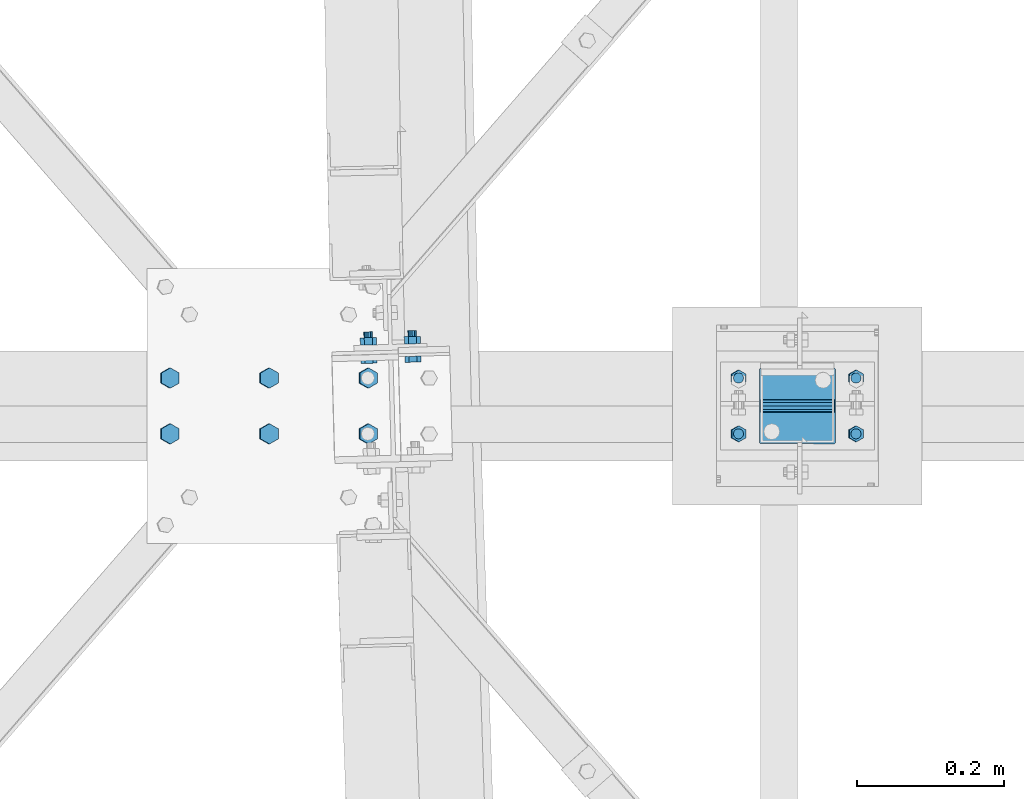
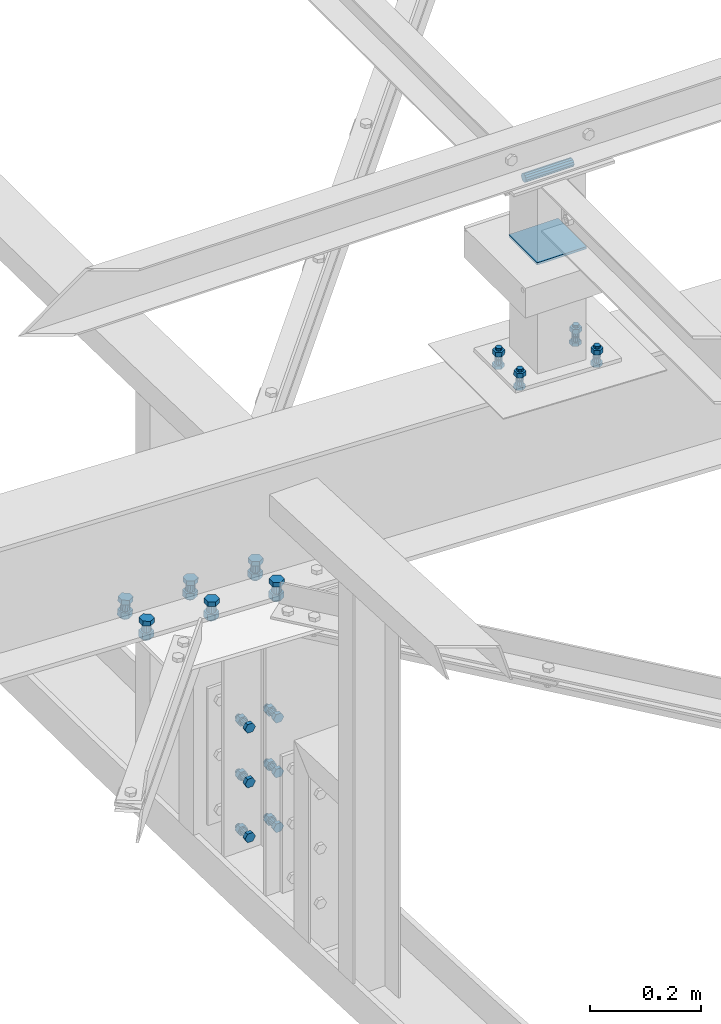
# One storey, part 164 of 3134: 6 mechanical fasteners, 4 elements without a shape of their own.
"""IFC2X3 building model written with IfcOpenShell, lengths in millimetres."""

from ifc_helpers import new_model, si_unit, frame, origin_with_axes, place, context, subcontext, project, spatial, faceted_brep, source, transform, mapped, material, type_object, element, aggregate, save


model = new_model("IFC2X3")

# Units and contexts
model_context = context("Model", 3, precision=1e-05, world=origin_with_axes())
body_context = subcontext(model_context, "Body", "Model", "MODEL_VIEW")
ifc_project = project(units=[si_unit("LENGTHUNIT", "METRE", prefix="MILLI"), si_unit("AREAUNIT", "SQUARE_METRE"), si_unit("VOLUMEUNIT", "CUBIC_METRE"), si_unit("MASSUNIT", "GRAM", prefix="KILO"), si_unit("TIMEUNIT", "SECOND"), si_unit("PLANEANGLEUNIT", "RADIAN"), si_unit("SOLIDANGLEUNIT", "STERADIAN"), si_unit("THERMODYNAMICTEMPERATUREUNIT", "DEGREE_CELSIUS"), si_unit("LUMINOUSINTENSITYUNIT", "LUMEN")], contexts=[model_context])

# Site, building, storey
site_placement = place(None, origin_with_axes())
site = spatial("IfcSite", under=ifc_project, at=site_placement, CompositionType="ELEMENT")
building_placement = place(site_placement, origin_with_axes())
building = spatial("IfcBuilding", under=site, at=building_placement, Name="Undefined", CompositionType="ELEMENT")
storey_placement = place(building_placement, origin_with_axes())
storey = spatial("IfcBuildingStorey", under=building, at=storey_placement, Name="Undefined", CompositionType="ELEMENT", Elevation=0.0)

# Assembly, mechanical fastener
assembly_1_placement = place(storey_placement, origin_with_axes())
assembly_1 = element("IfcElementAssembly", 1, at=assembly_1_placement, inside=storey, Name="PL8", AssemblyPlace="NOTDEFINED", PredefinedType="RIGID_FRAME")
ifc_material_1 = material(Name="8.8")
mechanical_fastener_type = type_object("IfcMechanicalFastenerType", Name="Bolt assembly")
shared_shape_1 = source(origin_with_axes(), body_context, "Body", "Brep", [
    faceted_brep([(13.856406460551, -23.1999997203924, 0.0), (6.92820323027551, -23.1999997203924, 12.0), (-6.92820323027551, -23.1999997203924, 12.0), (-13.856406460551, -23.1999997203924, 1.69692038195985e-15), (-6.92820323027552, -23.1999997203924, -12.0), (6.9282032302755, -23.1999997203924, -12.0), (6.9282032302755, -13.1999997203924, -12.0), (-6.92820323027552, -13.1999997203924, -12.0), (-13.856406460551, -13.1999997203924, 1.69692038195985e-15), (-6.92820323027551, -13.1999997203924, 12.0), (6.92820323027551, -13.1999997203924, 12.0), (13.856406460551, -13.1999997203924, 0.0), (8.0, -13.1999997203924, 0.0), (6.92820323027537, -13.1999997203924, 4.00000000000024), (3.99999999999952, -13.1999997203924, 6.92820323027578), (-8.29068785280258e-13, -13.1999997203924, 8.0), (-4.00000000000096, -13.1999997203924, 6.92820323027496), (-6.9282032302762, -13.1999997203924, 3.99999999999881), (-8.0, -13.1999997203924, -1.65813757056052e-12), (-6.92820323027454, -13.1999997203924, -4.00000000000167), (-3.99999999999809, -13.1999997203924, -6.92820323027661), (2.47832457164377e-12, -13.1999997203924, -8.0), (4.00000000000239, -13.1999997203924, -6.92820323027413), (6.92820323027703, -13.1999997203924, -3.99999999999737), (6.92820323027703, 21.8000002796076, -3.99999999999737), (4.00000000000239, 21.8000002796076, -6.92820323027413), (2.47832457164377e-12, 21.8000002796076, -8.0), (-3.99999999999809, 21.8000002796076, -6.92820323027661), (-6.92820323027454, 21.8000002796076, -4.00000000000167), (-8.0, 21.8000002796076, -1.65813757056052e-12), (-6.9282032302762, 21.8000002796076, 3.99999999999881), (-4.00000000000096, 21.8000002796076, 6.92820323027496), (-8.29068785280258e-13, 21.8000002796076, 8.0), (3.99999999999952, 21.8000002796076, 6.92820323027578), (6.92820323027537, 21.8000002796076, 4.00000000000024), (8.0, 21.8000002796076, 0.0), (13.856406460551, 3.99999999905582, 0.0), (6.92820323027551, 3.99999999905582, 12.0), (-6.92820323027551, 3.99999999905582, 12.0), (-13.856406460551, 3.99999999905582, 1.69692038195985e-15), (-6.92820323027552, 3.99999999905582, -12.0), (6.9282032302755, 3.99999999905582, -12.0), (6.9282032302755, 16.9999999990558, -12.0), (-6.92820323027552, 16.9999999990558, -12.0), (-13.856406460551, 16.9999999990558, 1.69692038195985e-15), (-6.92820323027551, 16.9999999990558, 12.0), (6.92820323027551, 16.9999999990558, 12.0), (13.856406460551, 16.9999999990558, 0.0)], [[[0, 1, 2, 3, 4, 5]], [[6, 7, 8, 9, 10, 11]], [[0, 11, 10, 1]], [[1, 10, 9, 2]], [[2, 9, 8, 3]], [[3, 8, 7, 4]], [[4, 7, 6, 5]], [[5, 6, 11, 0]], [[12, 13, 14, 15, 16, 17, 18, 19, 20, 21, 22, 23]], [[24, 25, 26, 27, 28, 29, 30, 31, 32, 33, 34, 35]], [[12, 35, 34, 13]], [[13, 34, 33, 14]], [[14, 33, 32, 15]], [[15, 32, 31, 16]], [[16, 31, 30, 17]], [[17, 30, 29, 18]], [[18, 29, 28, 19]], [[19, 28, 27, 20]], [[20, 27, 26, 21]], [[21, 26, 25, 22]], [[22, 25, 24, 23]], [[23, 24, 35, 12]], [[36, 37, 38, 39, 40, 41]], [[42, 43, 44, 45, 46, 47]], [[36, 47, 46, 37]], [[37, 46, 45, 38]], [[38, 45, 44, 39]], [[39, 44, 43, 40]], [[40, 43, 42, 41]], [[41, 42, 47, 36]]]),
    faceted_brep([(9.0, -13.0999997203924, 0.0), (7.79422863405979, -13.0999997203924, 4.50000000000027), (4.49999999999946, -13.0999997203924, 7.79422863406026), (-9.3270238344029e-13, -13.0999997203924, 9.0), (-4.50000000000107, -13.0999997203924, 7.79422863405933), (-7.79422863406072, -13.0999997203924, 4.49999999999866), (-9.0, -13.0999997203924, -1.86540476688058e-12), (-7.79422863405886, -13.0999997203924, -4.50000000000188), (-4.49999999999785, -13.0999997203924, -7.79422863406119), (2.78811514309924e-12, -13.0999997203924, -9.0), (4.50000000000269, -13.0999997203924, -7.7942286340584), (7.79422863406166, -13.0999997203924, -4.49999999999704), (7.79422863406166, -3.9, -4.49999999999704), (4.50000000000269, -3.9, -7.7942286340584), (2.78811514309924e-12, -3.9, -9.0), (-4.49999999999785, -3.9, -7.79422863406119), (-7.79422863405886, -3.9, -4.50000000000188), (-9.0, -3.9, -1.86540476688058e-12), (-7.79422863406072, -3.9, 4.49999999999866), (-4.50000000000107, -3.9, 7.79422863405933), (-9.3270238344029e-13, -3.9, 9.0), (4.49999999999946, -3.9, 7.79422863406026), (7.79422863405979, -3.9, 4.50000000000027), (9.0, -3.9, 0.0), (9.0, -4.10000000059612, 0.0), (7.79422863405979, -4.10000000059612, 4.50000000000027), (4.49999999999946, -4.10000000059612, 7.79422863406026), (-9.3270238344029e-13, -4.10000000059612, 9.0), (-4.50000000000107, -4.10000000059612, 7.79422863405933), (-7.79422863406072, -4.10000000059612, 4.49999999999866), (-9.0, -4.10000000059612, -1.86540476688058e-12), (-7.79422863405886, -4.10000000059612, -4.50000000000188), (-4.49999999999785, -4.10000000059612, -7.79422863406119), (2.78811514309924e-12, -4.10000000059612, -9.0), (4.50000000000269, -4.10000000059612, -7.7942286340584), (7.79422863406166, -4.10000000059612, -4.49999999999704), (7.79422863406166, 4.00000375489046, -4.49999999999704), (4.50000000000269, 4.00000375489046, -7.7942286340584), (2.78811514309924e-12, 4.00000375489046, -9.0), (-4.49999999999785, 4.00000375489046, -7.79422863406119), (-7.79422863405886, 4.00000375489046, -4.50000000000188), (-9.0, 4.00000375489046, -1.86540476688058e-12), (-7.79422863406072, 4.00000375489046, 4.49999999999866), (-4.50000000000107, 4.00000375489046, 7.79422863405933), (-9.3270238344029e-13, 4.00000375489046, 9.0), (4.49999999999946, 4.00000375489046, 7.79422863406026), (7.79422863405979, 4.00000375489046, 4.50000000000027), (9.0, 4.00000375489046, 0.0)], [[[0, 1, 2, 3, 4, 5, 6, 7, 8, 9, 10, 11]], [[12, 13, 14, 15, 16, 17, 18, 19, 20, 21, 22, 23]], [[0, 23, 22, 1]], [[1, 22, 21, 2]], [[2, 21, 20, 3]], [[3, 20, 19, 4]], [[4, 19, 18, 5]], [[5, 18, 17, 6]], [[6, 17, 16, 7]], [[7, 16, 15, 8]], [[8, 15, 14, 9]], [[9, 14, 13, 10]], [[10, 13, 12, 11]], [[11, 12, 23, 0]], [[24, 25, 26, 27, 28, 29, 30, 31, 32, 33, 34, 35]], [[36, 37, 38, 39, 40, 41, 42, 43, 44, 45, 46, 47]], [[24, 47, 46, 25]], [[25, 46, 45, 26]], [[26, 45, 44, 27]], [[27, 44, 43, 28]], [[28, 43, 42, 29]], [[29, 42, 41, 30]], [[30, 41, 40, 31]], [[31, 40, 39, 32]], [[32, 39, 38, 33]], [[33, 38, 37, 34]], [[34, 37, 36, 35]], [[35, 36, 47, 24]]]),
])
mechanical_fastener_1_placement = place(assembly_1_placement, frame((2323.7477445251, 32205.75, 3657.4832671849), z_axis=(-0.999388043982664, 0.0, 0.0349791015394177), x_axis=(0.0, 1.0, 0.0)))
mechanical_fastener_1 = element("IfcMechanicalFastener", 2, at=mechanical_fastener_1_placement, type_object=mechanical_fastener_type, material=ifc_material_1, Name="Bolt assembly", NominalDiameter=16.0, NominalLength=35.0, context=body_context, shape_type="MappedRepresentation", body=[
    mapped(shared_shape_1, transform((0.0, 0.0, -135.000000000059))),
    mapped(shared_shape_1, transform((76.0, 0.0, -135.000000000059))),
    mapped(shared_shape_1, transform((0.0, 0.0, 0.0))),
    mapped(shared_shape_1, transform((76.0, 0.0, 0.0))),
    mapped(shared_shape_1, transform((0.0, 0.0, 135.000000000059))),
    mapped(shared_shape_1, transform((76.0, 0.0, 135.000000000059))),
])
aggregate(assembly_1, [mechanical_fastener_1])

assembly_2_placement = place(storey_placement, origin_with_axes())
assembly_2 = element("IfcElementAssembly", 3, at=assembly_2_placement, inside=storey, Name="HEA160", AssemblyPlace="NOTDEFINED", PredefinedType="RIGID_FRAME")
shared_shape_2 = source(origin_with_axes(), body_context, "Body", "Brep", [
    faceted_brep([(10.9696551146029, -17.0000000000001, 0.0), (5.48482755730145, -17.0000000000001, 9.5), (-5.48482755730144, -17.0000000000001, 9.5), (-10.9696551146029, -17.0000000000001, 1.34339530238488e-15), (-5.48482755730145, -17.0000000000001, -9.5), (5.48482755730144, -17.0000000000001, -9.50000000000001), (5.48482755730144, -9.00000000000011, -9.50000000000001), (-5.48482755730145, -9.00000000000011, -9.5), (-10.9696551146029, -9.00000000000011, 1.34339530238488e-15), (-5.48482755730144, -9.00000000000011, 9.5), (5.48482755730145, -9.00000000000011, 9.5), (10.9696551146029, -9.00000000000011, 0.0), (6.0, -9.00000000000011, 0.0), (5.19615242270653, -9.00000000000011, 3.00000000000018), (2.99999999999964, -9.00000000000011, 5.19615242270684), (-6.21801588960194e-13, -9.00000000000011, 6.0), (-3.00000000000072, -9.00000000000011, 5.19615242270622), (-5.19615242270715, -9.00000000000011, 2.9999999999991), (-6.0, -9.00000000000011, -1.24360317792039e-12), (-5.19615242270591, -9.00000000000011, -3.00000000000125), (-2.99999999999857, -9.00000000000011, -5.19615242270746), (1.85874342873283e-12, -9.00000000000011, -6.0), (3.00000000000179, -9.00000000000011, -5.1961524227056), (5.19615242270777, -9.00000000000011, -2.99999999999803), (5.19615242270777, 26.0, -2.99999999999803), (3.00000000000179, 26.0, -5.1961524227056), (1.85874342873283e-12, 26.0, -6.0), (-2.99999999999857, 26.0, -5.19615242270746), (-5.19615242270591, 26.0, -3.00000000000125), (-6.0, 26.0, -1.24360317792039e-12), (-5.19615242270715, 26.0, 2.9999999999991), (-3.00000000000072, 26.0, 5.19615242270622), (-6.21801588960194e-13, 26.0, 6.0), (2.99999999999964, 26.0, 5.19615242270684), (5.19615242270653, 26.0, 3.00000000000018), (6.0, 26.0, 0.0), (10.9696551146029, 8.0, 0.0), (5.48482755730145, 8.0, 9.5), (-5.48482755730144, 8.0, 9.5), (-10.9696551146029, 8.0, 1.34339530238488e-15), (-5.48482755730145, 8.0, -9.5), (5.48482755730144, 8.0, -9.50000000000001), (5.48482755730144, 18.0, -9.50000000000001), (-5.48482755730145, 18.0, -9.5), (-10.9696551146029, 18.0, 1.34339530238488e-15), (-5.48482755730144, 18.0, 9.5), (5.48482755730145, 18.0, 9.5), (10.9696551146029, 18.0, 0.0)], [[[0, 1, 2, 3, 4, 5]], [[6, 7, 8, 9, 10, 11]], [[0, 11, 10, 1]], [[1, 10, 9, 2]], [[2, 9, 8, 3]], [[3, 8, 7, 4]], [[4, 7, 6, 5]], [[5, 6, 11, 0]], [[12, 13, 14, 15, 16, 17, 18, 19, 20, 21, 22, 23]], [[24, 25, 26, 27, 28, 29, 30, 31, 32, 33, 34, 35]], [[12, 35, 34, 13]], [[13, 34, 33, 14]], [[14, 33, 32, 15]], [[15, 32, 31, 16]], [[16, 31, 30, 17]], [[17, 30, 29, 18]], [[18, 29, 28, 19]], [[19, 28, 27, 20]], [[20, 27, 26, 21]], [[21, 26, 25, 22]], [[22, 25, 24, 23]], [[23, 24, 35, 12]], [[36, 37, 38, 39, 40, 41]], [[42, 43, 44, 45, 46, 47]], [[36, 47, 46, 37]], [[37, 46, 45, 38]], [[38, 45, 44, 39]], [[39, 44, 43, 40]], [[40, 43, 42, 41]], [[41, 42, 47, 36]]]),
    faceted_brep([(7.0, -0.1, 0.0), (6.06217782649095, -0.1, 3.50000000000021), (3.49999999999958, -0.1, 6.06217782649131), (-7.25435187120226e-13, -0.1, 7.0), (-3.50000000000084, -0.1, 6.06217782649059), (-6.06217782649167, -0.1, 3.49999999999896), (-7.0, -0.1, -1.45087037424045e-12), (-6.06217782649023, -0.1, -3.50000000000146), (-3.49999999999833, -0.1, -6.06217782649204), (2.1685340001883e-12, -0.1, -7.0), (3.50000000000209, -0.1, -6.06217782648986), (6.0621778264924, -0.1, -3.4999999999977), (6.0621778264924, 8.0000000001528, -3.4999999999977), (3.50000000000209, 8.0000000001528, -6.06217782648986), (2.1685340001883e-12, 8.0000000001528, -7.0), (-3.49999999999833, 8.0000000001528, -6.06217782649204), (-6.06217782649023, 8.0000000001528, -3.50000000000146), (-7.0, 8.0000000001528, -1.45087037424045e-12), (-6.06217782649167, 8.0000000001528, 3.49999999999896), (-3.50000000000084, 8.0000000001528, 6.06217782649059), (-7.25435187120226e-13, 8.0000000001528, 7.0), (3.49999999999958, 8.0000000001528, 6.06217782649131), (6.06217782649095, 8.0000000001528, 3.50000000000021), (7.0, 8.0000000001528, 0.0), (7.0, -8.90000000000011, 0.0), (6.06217782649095, -8.90000000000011, 3.50000000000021), (3.49999999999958, -8.90000000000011, 6.06217782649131), (-7.25435187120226e-13, -8.90000000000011, 7.0), (-3.50000000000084, -8.90000000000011, 6.06217782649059), (-6.06217782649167, -8.90000000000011, 3.49999999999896), (-7.0, -8.90000000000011, -1.45087037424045e-12), (-6.06217782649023, -8.90000000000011, -3.50000000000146), (-3.49999999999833, -8.90000000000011, -6.06217782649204), (2.1685340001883e-12, -8.90000000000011, -7.0), (3.50000000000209, -8.90000000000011, -6.06217782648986), (6.0621778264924, -8.90000000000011, -3.4999999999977), (6.0621778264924, 0.0999999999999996, -3.4999999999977), (3.50000000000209, 0.0999999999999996, -6.06217782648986), (2.1685340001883e-12, 0.0999999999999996, -7.0), (-3.49999999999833, 0.0999999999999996, -6.06217782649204), (-6.06217782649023, 0.0999999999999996, -3.50000000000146), (-7.0, 0.0999999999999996, -1.45087037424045e-12), (-6.06217782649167, 0.0999999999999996, 3.49999999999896), (-3.50000000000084, 0.0999999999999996, 6.06217782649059), (-7.25435187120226e-13, 0.0999999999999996, 7.0), (3.49999999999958, 0.0999999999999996, 6.06217782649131), (6.06217782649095, 0.0999999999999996, 3.50000000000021), (7.0, 0.0999999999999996, 0.0)], [[[0, 1, 2, 3, 4, 5, 6, 7, 8, 9, 10, 11]], [[12, 13, 14, 15, 16, 17, 18, 19, 20, 21, 22, 23]], [[0, 23, 22, 1]], [[1, 22, 21, 2]], [[2, 21, 20, 3]], [[3, 20, 19, 4]], [[4, 19, 18, 5]], [[5, 18, 17, 6]], [[6, 17, 16, 7]], [[7, 16, 15, 8]], [[8, 15, 14, 9]], [[9, 14, 13, 10]], [[10, 13, 12, 11]], [[11, 12, 23, 0]], [[24, 25, 26, 27, 28, 29, 30, 31, 32, 33, 34, 35]], [[36, 37, 38, 39, 40, 41, 42, 43, 44, 45, 46, 47]], [[24, 47, 46, 25]], [[25, 46, 45, 26]], [[26, 45, 44, 27]], [[27, 44, 43, 28]], [[28, 43, 42, 29]], [[29, 42, 41, 30]], [[30, 41, 40, 31]], [[31, 40, 39, 32]], [[32, 39, 38, 33]], [[33, 38, 37, 34]], [[34, 37, 36, 35]], [[35, 36, 47, 24]]]),
])
mechanical_fastener_2_placement = place(assembly_2_placement, frame((2459.41190311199, 32318.7152863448, 3170.0), z_axis=(0.0, 0.0, 1.0), x_axis=(0.999643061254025, 0.0267161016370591, 0.0)))
mechanical_fastener_2 = element("IfcMechanicalFastener", 4, at=mechanical_fastener_2_placement, type_object=mechanical_fastener_type, material=ifc_material_1, Name="Bolt assembly", NominalDiameter=12.0, NominalLength=35.0, context=body_context, shape_type="MappedRepresentation", body=[
    mapped(shared_shape_2, transform((0.0, 0.0, -120.0))),
    mapped(shared_shape_2, transform((60.0000000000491, 0.0, -120.0))),
    mapped(shared_shape_2, transform((0.0, 0.0, 0.0))),
    mapped(shared_shape_2, transform((59.9999999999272, 0.0, 5.40239852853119e-10))),
    mapped(shared_shape_2, transform((0.0, 0.0, 120.0))),
    mapped(shared_shape_2, transform((60.0000000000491, 0.0, 120.0))),
])
aggregate(assembly_2, [mechanical_fastener_2])

assembly_3_placement = place(storey_placement, origin_with_axes())
assembly_3 = element("IfcElementAssembly", 5, at=assembly_3_placement, inside=storey, AssemblyPlace="NOTDEFINED", PredefinedType="RIGID_FRAME")
shared_shape_3 = source(origin_with_axes(), body_context, "Body", "Brep", [
    faceted_brep([(10.9696551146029, -4.1972538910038, 0.0), (5.48482755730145, -4.1972538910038, 9.5), (-5.48482755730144, -4.1972538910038, 9.5), (-10.9696551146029, -4.1972538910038, 1.34339530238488e-15), (-5.48482755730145, -4.1972538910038, -9.5), (5.48482755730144, -4.1972538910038, -9.50000000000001), (5.48482755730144, 3.8027461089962, -9.50000000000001), (-5.48482755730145, 3.8027461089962, -9.5), (-10.9696551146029, 3.8027461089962, 1.34339530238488e-15), (-5.48482755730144, 3.8027461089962, 9.5), (5.48482755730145, 3.8027461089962, 9.5), (10.9696551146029, 3.8027461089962, 0.0), (6.0, 3.8027461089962, 0.0), (5.19615242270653, 3.8027461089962, 3.00000000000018), (2.99999999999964, 3.8027461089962, 5.19615242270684), (-6.21801588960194e-13, 3.8027461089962, 6.0), (-3.00000000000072, 3.8027461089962, 5.19615242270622), (-5.19615242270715, 3.8027461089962, 2.9999999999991), (-6.0, 3.8027461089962, -1.24360317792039e-12), (-5.19615242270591, 3.8027461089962, -3.00000000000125), (-2.99999999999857, 3.8027461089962, -5.19615242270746), (1.85874342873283e-12, 3.8027461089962, -6.0), (3.00000000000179, 3.8027461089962, -5.1961524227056), (5.19615242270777, 3.8027461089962, -2.99999999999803), (5.19615242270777, 38.8027461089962, -2.99999999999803), (3.00000000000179, 38.8027461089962, -5.1961524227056), (1.85874342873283e-12, 38.8027461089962, -6.0), (-2.99999999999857, 38.8027461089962, -5.19615242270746), (-5.19615242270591, 38.8027461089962, -3.00000000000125), (-6.0, 38.8027461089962, -1.24360317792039e-12), (-5.19615242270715, 38.8027461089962, 2.9999999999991), (-3.00000000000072, 38.8027461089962, 5.19615242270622), (-6.21801588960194e-13, 38.8027461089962, 6.0), (2.99999999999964, 38.8027461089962, 5.19615242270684), (5.19615242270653, 38.8027461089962, 3.00000000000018), (6.0, 38.8027461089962, 0.0), (10.9696551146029, 23.0139082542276, 0.0), (5.48482755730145, 23.0139082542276, 9.5), (-5.48482755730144, 23.0139082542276, 9.5), (-10.9696551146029, 23.0139082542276, 1.34339530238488e-15), (-5.48482755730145, 23.0139082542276, -9.5), (5.48482755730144, 23.0139082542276, -9.50000000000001), (5.48482755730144, 33.0139082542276, -9.50000000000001), (-5.48482755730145, 33.0139082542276, -9.5), (-10.9696551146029, 33.0139082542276, 1.34339530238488e-15), (-5.48482755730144, 33.0139082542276, 9.5), (5.48482755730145, 33.0139082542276, 9.5), (10.9696551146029, 33.0139082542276, 0.0)], [[[0, 1, 2, 3, 4, 5]], [[6, 7, 8, 9, 10, 11]], [[0, 11, 10, 1]], [[1, 10, 9, 2]], [[2, 9, 8, 3]], [[3, 8, 7, 4]], [[4, 7, 6, 5]], [[5, 6, 11, 0]], [[12, 13, 14, 15, 16, 17, 18, 19, 20, 21, 22, 23]], [[24, 25, 26, 27, 28, 29, 30, 31, 32, 33, 34, 35]], [[12, 35, 34, 13]], [[13, 34, 33, 14]], [[14, 33, 32, 15]], [[15, 32, 31, 16]], [[16, 31, 30, 17]], [[17, 30, 29, 18]], [[18, 29, 28, 19]], [[19, 28, 27, 20]], [[20, 27, 26, 21]], [[21, 26, 25, 22]], [[22, 25, 24, 23]], [[23, 24, 35, 12]], [[36, 37, 38, 39, 40, 41]], [[42, 43, 44, 45, 46, 47]], [[36, 47, 46, 37]], [[37, 46, 45, 38]], [[38, 45, 44, 39]], [[39, 44, 43, 40]], [[40, 43, 42, 41]], [[41, 42, 47, 36]]]),
    faceted_brep([(7.0, 3.9027461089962, 0.0), (6.06217782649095, 3.9027461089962, 3.50000000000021), (3.49999999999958, 3.9027461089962, 6.06217782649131), (-7.25435187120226e-13, 3.9027461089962, 7.0), (-3.50000000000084, 3.9027461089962, 6.06217782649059), (-6.06217782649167, 3.9027461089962, 3.49999999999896), (-7.0, 3.9027461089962, -1.45087037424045e-12), (-6.06217782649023, 3.9027461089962, -3.50000000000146), (-3.49999999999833, 3.9027461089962, -6.06217782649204), (2.1685340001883e-12, 3.9027461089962, -7.0), (3.50000000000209, 3.9027461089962, -6.06217782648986), (6.0621778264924, 3.9027461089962, -3.4999999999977), (6.0621778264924, 13.1027459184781, -3.4999999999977), (3.50000000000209, 13.1027459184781, -6.06217782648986), (2.1685340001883e-12, 13.1027459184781, -7.0), (-3.49999999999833, 13.1027459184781, -6.06217782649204), (-6.06217782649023, 13.1027459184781, -3.50000000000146), (-7.0, 13.1027459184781, -1.45087037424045e-12), (-6.06217782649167, 13.1027459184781, 3.49999999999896), (-3.50000000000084, 13.1027459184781, 6.06217782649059), (-7.25435187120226e-13, 13.1027459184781, 7.0), (3.49999999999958, 13.1027459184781, 6.06217782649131), (6.06217782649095, 13.1027459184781, 3.50000000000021), (7.0, 13.1027459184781, 0.0), (7.0, 14.9139082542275, 0.0), (6.06217782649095, 14.9139082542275, 3.50000000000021), (3.49999999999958, 14.9139082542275, 6.06217782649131), (-7.25435187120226e-13, 14.9139082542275, 7.0), (-3.50000000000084, 14.9139082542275, 6.06217782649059), (-6.06217782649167, 14.9139082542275, 3.49999999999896), (-7.0, 14.9139082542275, -1.45087037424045e-12), (-6.06217782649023, 14.9139082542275, -3.50000000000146), (-3.49999999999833, 14.9139082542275, -6.06217782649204), (2.1685340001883e-12, 14.9139082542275, -7.0), (3.50000000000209, 14.9139082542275, -6.06217782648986), (6.0621778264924, 14.9139082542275, -3.4999999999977), (6.0621778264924, 23.0139082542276, -3.4999999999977), (3.50000000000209, 23.0139082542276, -6.06217782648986), (2.1685340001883e-12, 23.0139082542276, -7.0), (-3.49999999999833, 23.0139082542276, -6.06217782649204), (-6.06217782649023, 23.0139082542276, -3.50000000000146), (-7.0, 23.0139082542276, -1.45087037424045e-12), (-6.06217782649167, 23.0139082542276, 3.49999999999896), (-3.50000000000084, 23.0139082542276, 6.06217782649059), (-7.25435187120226e-13, 23.0139082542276, 7.0), (3.49999999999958, 23.0139082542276, 6.06217782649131), (6.06217782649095, 23.0139082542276, 3.50000000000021), (7.0, 23.0139082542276, 0.0)], [[[0, 1, 2, 3, 4, 5, 6, 7, 8, 9, 10, 11]], [[12, 13, 14, 15, 16, 17, 18, 19, 20, 21, 22, 23]], [[0, 23, 22, 1]], [[1, 22, 21, 2]], [[2, 21, 20, 3]], [[3, 20, 19, 4]], [[4, 19, 18, 5]], [[5, 18, 17, 6]], [[6, 17, 16, 7]], [[7, 16, 15, 8]], [[8, 15, 14, 9]], [[9, 14, 13, 10]], [[10, 13, 12, 11]], [[11, 12, 23, 0]], [[24, 25, 26, 27, 28, 29, 30, 31, 32, 33, 34, 35]], [[36, 37, 38, 39, 40, 41, 42, 43, 44, 45, 46, 47]], [[24, 47, 46, 25]], [[25, 46, 45, 26]], [[26, 45, 44, 27]], [[27, 44, 43, 28]], [[28, 43, 42, 29]], [[29, 42, 41, 30]], [[30, 41, 40, 31]], [[31, 40, 39, 32]], [[32, 39, 38, 33]], [[33, 38, 37, 34]], [[34, 37, 36, 35]], [[35, 36, 47, 24]]]),
])
mechanical_fastener_3_placement = place(assembly_3_placement, frame((3042.5231765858, 32281.7499999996, 3920.50000668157), z_axis=(-0.999387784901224, 0.0, 0.0349865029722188), x_axis=(0.0, -1.0, 0.0)))
mechanical_fastener_3 = element("IfcMechanicalFastener", 6, at=mechanical_fastener_3_placement, type_object=mechanical_fastener_type, material=ifc_material_1, Name="Bolt assembly", NominalDiameter=12.0, NominalLength=35.0, context=body_context, shape_type="MappedRepresentation", body=[
    mapped(shared_shape_3, transform((0.0, -5.32963895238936e-10, -79.9999999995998))),
    mapped(shared_shape_3, transform((76.0, -5.32963895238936e-10, -79.9999999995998))),
    mapped(shared_shape_3, transform((0.0, 5.3114490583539e-10, 79.9999999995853))),
    mapped(shared_shape_3, transform((76.0, 5.3114490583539e-10, 79.9999999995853))),
])

assembly_4_placement = place(storey_placement, origin_with_axes())
assembly_4 = element("IfcElementAssembly", 7, at=assembly_4_placement, inside=storey, AssemblyPlace="NOTDEFINED", PredefinedType="RIGID_FRAME")
shared_shape_4 = source(origin_with_axes(), body_context, "Body", "Brep", [
    faceted_brep([(7.0, 13.0000253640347, 0.0), (6.06217782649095, 13.0000253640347, 3.50000000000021), (3.49999999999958, 13.0000253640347, 6.06217782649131), (-7.25435187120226e-13, 13.0000253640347, 7.0), (-3.50000000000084, 13.0000253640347, 6.06217782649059), (-6.06217782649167, 13.0000253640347, 3.49999999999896), (-7.0, 13.0000253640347, -1.45087037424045e-12), (-6.06217782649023, 13.0000253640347, -3.50000000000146), (-3.49999999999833, 13.0000253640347, -6.06217782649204), (2.1685340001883e-12, 13.0000253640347, -7.0), (3.50000000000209, 13.0000253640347, -6.06217782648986), (6.0621778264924, 13.0000253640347, -3.4999999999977), (6.0621778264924, 15.0999999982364, -3.4999999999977), (3.50000000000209, 15.0999999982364, -6.06217782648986), (2.1685340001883e-12, 15.0999999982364, -7.0), (-3.49999999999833, 15.0999999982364, -6.06217782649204), (-6.06217782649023, 15.0999999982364, -3.50000000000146), (-7.0, 15.0999999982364, -1.45087037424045e-12), (-6.06217782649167, 15.0999999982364, 3.49999999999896), (-3.50000000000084, 15.0999999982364, 6.06217782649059), (-7.25435187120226e-13, 15.0999999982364, 7.0), (3.49999999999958, 15.0999999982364, 6.06217782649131), (6.06217782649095, 15.0999999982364, 3.50000000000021), (7.0, 15.0999999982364, 0.0)], [[[0, 1, 2, 3, 4, 5, 6, 7, 8, 9, 10, 11]], [[12, 13, 14, 15, 16, 17, 18, 19, 20, 21, 22, 23]], [[0, 23, 22, 1]], [[1, 22, 21, 2]], [[2, 21, 20, 3]], [[3, 20, 19, 4]], [[4, 19, 18, 5]], [[5, 18, 17, 6]], [[6, 17, 16, 7]], [[7, 16, 15, 8]], [[8, 15, 14, 9]], [[9, 14, 13, 10]], [[10, 13, 12, 11]], [[11, 12, 23, 0]]]),
])
mechanical_fastener_4_placement = place(assembly_4_placement, frame((3042.5231765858, 32281.7499999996, 3920.50000668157), z_axis=(-0.999387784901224, 0.0, 0.0349865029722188), x_axis=(0.0, -1.0, 0.0)))
mechanical_fastener_4 = element("IfcMechanicalFastener", 8, at=mechanical_fastener_4_placement, type_object=mechanical_fastener_type, material=ifc_material_1, Name="Bolt assembly", NominalDiameter=12.0, NominalLength=2.0, context=body_context, shape_type="MappedRepresentation", body=[
    mapped(shared_shape_4, transform((0.0, -5.32963895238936e-10, -79.9999999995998))),
    mapped(shared_shape_4, transform((76.0, -5.32963895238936e-10, -79.9999999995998))),
    mapped(shared_shape_4, transform((0.0, 5.3114490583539e-10, 79.9999999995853))),
    mapped(shared_shape_4, transform((76.0, 5.3114490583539e-10, 79.9999999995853))),
])
aggregate(assembly_4, [mechanical_fastener_4])

# Mechanical fastener
shared_shape_5 = source(origin_with_axes(), body_context, "Body", "Brep", [
    faceted_brep([(9.0, -50.0, 0.0), (7.79422863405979, -50.0, 4.50000000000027), (4.49999999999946, -50.0, 7.79422863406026), (-9.3270238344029e-13, -50.0, 9.0), (-4.50000000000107, -50.0, 7.79422863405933), (-7.79422863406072, -50.0, 4.49999999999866), (-9.0, -50.0, -1.86540476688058e-12), (-7.79422863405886, -50.0, -4.50000000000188), (-4.49999999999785, -50.0, -7.79422863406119), (2.78811514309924e-12, -50.0, -9.0), (4.50000000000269, -50.0, -7.7942286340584), (7.79422863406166, -50.0, -4.49999999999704), (7.79422863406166, 50.1, -4.49999999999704), (4.50000000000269, 50.1, -7.7942286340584), (2.78811514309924e-12, 50.1, -9.0), (-4.49999999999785, 50.1, -7.79422863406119), (-7.79422863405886, 50.1, -4.50000000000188), (-9.0, 50.1, -1.86540476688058e-12), (-7.79422863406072, 50.1, 4.49999999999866), (-4.50000000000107, 50.1, 7.79422863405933), (-9.3270238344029e-13, 50.1, 9.0), (4.49999999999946, 50.1, 7.79422863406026), (7.79422863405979, 50.1, 4.50000000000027), (9.0, 50.1, 0.0)], [[[0, 1, 2, 3, 4, 5, 6, 7, 8, 9, 10, 11]], [[12, 13, 14, 15, 16, 17, 18, 19, 20, 21, 22, 23]], [[0, 23, 22, 1]], [[1, 22, 21, 2]], [[2, 21, 20, 3]], [[3, 20, 19, 4]], [[4, 19, 18, 5]], [[5, 18, 17, 6]], [[6, 17, 16, 7]], [[7, 16, 15, 8]], [[8, 15, 14, 9]], [[9, 14, 13, 10]], [[10, 13, 12, 11]], [[11, 12, 23, 0]]]),
])
mechanical_fastener_5_placement = place(assembly_3_placement, frame((3043.33, 32243.75, 4345.0), z_axis=(0.0, 1.0, 0.0), x_axis=(0.0, 0.0, 1.0)))
mechanical_fastener_5 = element("IfcMechanicalFastener", 9, at=mechanical_fastener_5_placement, type_object=mechanical_fastener_type, material=ifc_material_1, Name="Bolt assembly", NominalDiameter=16.0, NominalLength=100.0, context=body_context, shape_type="MappedRepresentation", body=[
    mapped(shared_shape_5, transform((0.0, 0.0, 0.0))),
])

ifc_material_2 = material(Name="6.8")
shared_shape_6 = source(origin_with_axes(), body_context, "Body", "Brep", [
    faceted_brep([(51.5, 1.36424205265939e-12, 50.0), (51.3858192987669, 1.36424205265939e-12, 50.5740251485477), (51.0606601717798, 1.36424205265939e-12, 51.0606601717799), (50.5740251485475, 1.36424205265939e-12, 51.385819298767), (-50.0000000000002, 1.36424205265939e-12, 51.5), (-50.7500000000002, 1.36424205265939e-12, 51.2990381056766), (-51.2990381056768, 1.36424205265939e-12, 50.7499999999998), (-51.5, 1.36424205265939e-12, 49.9999999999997), (-51.5, 1.36424205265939e-12, -50.0000000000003), (-51.2990381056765, 1.36424205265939e-12, -50.7500000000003), (-50.7499999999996, 1.36424205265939e-12, -51.2990381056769), (-49.9999999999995, 1.36424205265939e-12, -51.5), (50.0000000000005, 1.36424205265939e-12, -51.5), (50.7500000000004, 1.36424205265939e-12, -51.2990381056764), (51.2990381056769, 1.36424205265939e-12, -50.7499999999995), (51.5, 1.36424205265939e-12, -49.9999999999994), (51.5, 5.10000000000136, -49.9999999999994), (51.2990381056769, 5.10000000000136, -50.7499999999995), (50.7500000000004, 5.10000000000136, -51.2990381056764), (50.0000000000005, 5.10000000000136, -51.5), (-49.9999999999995, 5.10000000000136, -51.5), (-50.7499999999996, 5.10000000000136, -51.2990381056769), (-51.2990381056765, 5.10000000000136, -50.7500000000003), (-51.5, 5.10000000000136, -50.0000000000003), (-51.5, 5.10000000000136, 49.9999999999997), (-51.2990381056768, 5.10000000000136, 50.7499999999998), (-50.7500000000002, 5.10000000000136, 51.2990381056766), (-50.0000000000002, 5.10000000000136, 51.5), (50.5740251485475, 5.10000000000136, 51.385819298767), (51.0606601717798, 5.10000000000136, 51.0606601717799), (51.3858192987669, 5.10000000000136, 50.5740251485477), (51.5, 5.10000000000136, 50.0)], [[[0, 1, 2, 3, 4, 5, 6, 7, 8, 9, 10, 11, 12, 13, 14, 15]], [[16, 17, 18, 19, 20, 21, 22, 23, 24, 25, 26, 27, 28, 29, 30, 31]], [[0, 31, 30, 1]], [[1, 30, 29, 2]], [[2, 29, 28, 3]], [[3, 28, 27, 4]], [[4, 27, 26, 5]], [[5, 26, 25, 6]], [[6, 25, 24, 7]], [[7, 24, 23, 8]], [[8, 23, 22, 9]], [[9, 22, 21, 10]], [[10, 21, 20, 11]], [[11, 20, 19, 12]], [[12, 19, 18, 13]], [[13, 18, 17, 14]], [[14, 17, 16, 15]], [[15, 16, 31, 0]]]),
])
mechanical_fastener_6_placement = place(assembly_3_placement, frame((3043.33, 32243.75, 4190.29), z_axis=(0.0, -1.0, 0.0), x_axis=(-1.0, 0.0, 0.0)))
mechanical_fastener_6 = element("IfcMechanicalFastener", 10, at=mechanical_fastener_6_placement, type_object=mechanical_fastener_type, material=ifc_material_2, Name="Bolt assembly", NominalDiameter=10.0, NominalLength=5.0, context=body_context, shape_type="MappedRepresentation", body=[
    mapped(shared_shape_6, transform((0.0, 0.0, 0.0))),
])

aggregate(assembly_3, [mechanical_fastener_3, mechanical_fastener_6, mechanical_fastener_5])

save(model, "model.ifc")
